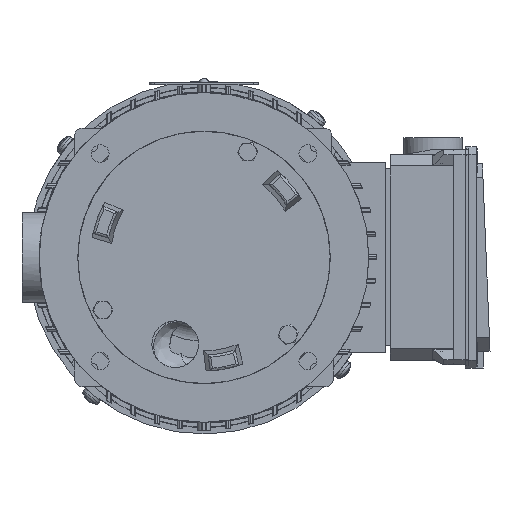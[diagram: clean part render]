
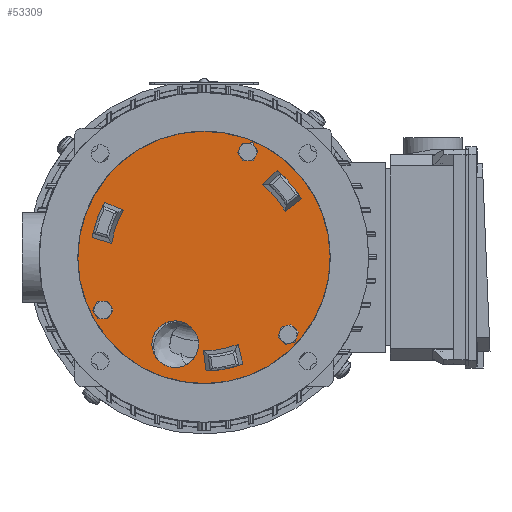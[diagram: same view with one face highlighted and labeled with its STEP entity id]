
A CAD part, front view. The second image highlights one B-rep face of the part: STEP entity #53309.
In plain terms, the highlighted planar face has unit normal (0, -1, 0).
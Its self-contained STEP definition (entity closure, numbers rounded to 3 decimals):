
#2802=FACE_BOUND('',#15404,.T.);
#2803=FACE_BOUND('',#15405,.T.);
#2804=FACE_BOUND('',#15406,.T.);
#2805=FACE_BOUND('',#15407,.T.);
#2806=FACE_BOUND('',#15408,.T.);
#2807=FACE_BOUND('',#15409,.T.);
#2808=FACE_BOUND('',#15410,.T.);
#4050=LINE('',#84432,#8375);
#4055=LINE('',#84516,#8380);
#4060=LINE('',#84607,#8385);
#4061=LINE('',#84621,#8386);
#4062=LINE('',#84626,#8387);
#4063=LINE('',#84635,#8388);
#8375=VECTOR('',#64399,1.);
#8380=VECTOR('',#64426,1.);
#8385=VECTOR('',#64459,1.);
#8386=VECTOR('',#64470,1.);
#8387=VECTOR('',#64477,1.);
#8388=VECTOR('',#64486,1.);
#12577=FACE_OUTER_BOUND('',#15403,.T.);
#15403=EDGE_LOOP('',(#36947));
#15404=EDGE_LOOP('',(#36948,#36949));
#15405=EDGE_LOOP('',(#36950,#36951));
#15406=EDGE_LOOP('',(#36952,#36953));
#15407=EDGE_LOOP('',(#36954,#36955,#36956,#36957));
#15408=EDGE_LOOP('',(#36958,#36959,#36960,#36961));
#15409=EDGE_LOOP('',(#36962,#36963,#36964,#36965));
#15410=EDGE_LOOP('',(#36966));
#18258=CIRCLE('',#56793,0.302);
#18259=CIRCLE('',#56794,0.302);
#18273=CIRCLE('',#56827,0.302);
#18274=CIRCLE('',#56828,0.302);
#18288=CIRCLE('',#56861,0.302);
#18289=CIRCLE('',#56862,0.302);
#18304=CIRCLE('',#56890,0.925);
#18315=CIRCLE('',#56905,5.);
#18324=CIRCLE('',#56925,3.702);
#18329=CIRCLE('',#56941,4.502);
#18334=CIRCLE('',#56955,4.502);
#18335=CIRCLE('',#56959,3.702);
#18336=CIRCLE('',#56963,4.502);
#18337=CIRCLE('',#56966,3.702);
#20967=VERTEX_POINT('',#83773);
#20968=VERTEX_POINT('',#83774);
#20994=VERTEX_POINT('',#83885);
#20995=VERTEX_POINT('',#83886);
#21022=VERTEX_POINT('',#83999);
#21023=VERTEX_POINT('',#84000);
#21045=VERTEX_POINT('',#84205);
#21055=VERTEX_POINT('',#84313);
#21067=VERTEX_POINT('',#84420);
#21068=VERTEX_POINT('',#84424);
#21069=VERTEX_POINT('',#84430);
#21080=VERTEX_POINT('',#84513);
#21081=VERTEX_POINT('',#84515);
#21082=VERTEX_POINT('',#84521);
#21093=VERTEX_POINT('',#84604);
#21094=VERTEX_POINT('',#84606);
#21095=VERTEX_POINT('',#84612);
#21096=VERTEX_POINT('',#84617);
#21097=VERTEX_POINT('',#84625);
#21098=VERTEX_POINT('',#84631);
#26798=EDGE_CURVE('',#20967,#20968,#18258,.T.);
#26799=EDGE_CURVE('',#20968,#20967,#18259,.T.);
#26840=EDGE_CURVE('',#20994,#20995,#18273,.T.);
#26841=EDGE_CURVE('',#20995,#20994,#18274,.T.);
#26883=EDGE_CURVE('',#21022,#21023,#18288,.T.);
#26884=EDGE_CURVE('',#21023,#21022,#18289,.T.);
#26923=EDGE_CURVE('',#21045,#21045,#18304,.T.);
#26941=EDGE_CURVE('',#21055,#21055,#18315,.T.);
#26963=EDGE_CURVE('',#21068,#21067,#18324,.T.);
#26966=EDGE_CURVE('',#21067,#21069,#4050,.T.);
#26982=EDGE_CURVE('',#21081,#21080,#4055,.T.);
#26985=EDGE_CURVE('',#21080,#21082,#18329,.T.);
#27001=EDGE_CURVE('',#21094,#21093,#4060,.T.);
#27004=EDGE_CURVE('',#21093,#21095,#18334,.T.);
#27006=EDGE_CURVE('',#21095,#21096,#4061,.T.);
#27007=EDGE_CURVE('',#21096,#21094,#18335,.T.);
#27008=EDGE_CURVE('',#21097,#21068,#4062,.T.);
#27010=EDGE_CURVE('',#21069,#21097,#18336,.T.);
#27012=EDGE_CURVE('',#21082,#21098,#4063,.T.);
#27013=EDGE_CURVE('',#21098,#21081,#18337,.T.);
#36947=ORIENTED_EDGE('',*,*,#26941,.T.);
#36948=ORIENTED_EDGE('',*,*,#26798,.T.);
#36949=ORIENTED_EDGE('',*,*,#26799,.T.);
#36950=ORIENTED_EDGE('',*,*,#26840,.T.);
#36951=ORIENTED_EDGE('',*,*,#26841,.T.);
#36952=ORIENTED_EDGE('',*,*,#26883,.T.);
#36953=ORIENTED_EDGE('',*,*,#26884,.T.);
#36954=ORIENTED_EDGE('',*,*,#27006,.T.);
#36955=ORIENTED_EDGE('',*,*,#27007,.T.);
#36956=ORIENTED_EDGE('',*,*,#27001,.T.);
#36957=ORIENTED_EDGE('',*,*,#27004,.T.);
#36958=ORIENTED_EDGE('',*,*,#27008,.T.);
#36959=ORIENTED_EDGE('',*,*,#26963,.T.);
#36960=ORIENTED_EDGE('',*,*,#26966,.T.);
#36961=ORIENTED_EDGE('',*,*,#27010,.T.);
#36962=ORIENTED_EDGE('',*,*,#27012,.T.);
#36963=ORIENTED_EDGE('',*,*,#27013,.T.);
#36964=ORIENTED_EDGE('',*,*,#26982,.T.);
#36965=ORIENTED_EDGE('',*,*,#26985,.T.);
#36966=ORIENTED_EDGE('',*,*,#26923,.T.);
#48502=PLANE('',#56967);
#53309=ADVANCED_FACE('',(#12577,#2802,#2803,#2804,#2805,#2806,#2807,#2808),
#48502,.F.);
#56793=AXIS2_PLACEMENT_3D('',#83775,#64075,#64076);
#56794=AXIS2_PLACEMENT_3D('',#83776,#64077,#64078);
#56827=AXIS2_PLACEMENT_3D('',#83887,#64158,#64159);
#56828=AXIS2_PLACEMENT_3D('',#83888,#64160,#64161);
#56861=AXIS2_PLACEMENT_3D('',#84001,#64242,#64243);
#56862=AXIS2_PLACEMENT_3D('',#84002,#64244,#64245);
#56890=AXIS2_PLACEMENT_3D('',#84207,#64316,#64317);
#56905=AXIS2_PLACEMENT_3D('',#84314,#64348,#64349);
#56925=AXIS2_PLACEMENT_3D('',#84425,#64393,#64394);
#56941=AXIS2_PLACEMENT_3D('',#84523,#64431,#64432);
#56955=AXIS2_PLACEMENT_3D('',#84614,#64464,#64465);
#56959=AXIS2_PLACEMENT_3D('',#84623,#64473,#64474);
#56963=AXIS2_PLACEMENT_3D('',#84629,#64482,#64483);
#56966=AXIS2_PLACEMENT_3D('',#84637,#64489,#64490);
#56967=AXIS2_PLACEMENT_3D('',#84638,#64491,#64492);
#64075=DIRECTION('center_axis',(0.,1.,0.));
#64076=DIRECTION('ref_axis',(0.999,0.,0.039));
#64077=DIRECTION('center_axis',(0.,1.,0.));
#64078=DIRECTION('ref_axis',(0.999,0.,0.039));
#64158=DIRECTION('center_axis',(0.,1.,0.));
#64159=DIRECTION('ref_axis',(0.97,0.,0.244));
#64160=DIRECTION('center_axis',(0.,1.,0.));
#64161=DIRECTION('ref_axis',(0.97,0.,0.244));
#64242=DIRECTION('center_axis',(0.,1.,0.));
#64243=DIRECTION('ref_axis',(0.497,0.,0.868));
#64244=DIRECTION('center_axis',(0.,1.,0.));
#64245=DIRECTION('ref_axis',(0.497,0.,0.868));
#64316=DIRECTION('center_axis',(0.,1.,0.));
#64317=DIRECTION('ref_axis',(-0.76,0.,-0.649));
#64348=DIRECTION('center_axis',(0.,-1.,0.));
#64349=DIRECTION('ref_axis',(-0.76,0.,-0.649));
#64393=DIRECTION('center_axis',(0.,-1.,0.));
#64394=DIRECTION('ref_axis',(0.863,0.,-0.506));
#64399=DIRECTION('',(-0.958,0.,0.287));
#64426=DIRECTION('',(0.231,0.,-0.973));
#64431=DIRECTION('center_axis',(0.,1.,0.));
#64432=DIRECTION('ref_axis',(0.018,0.,-1.));
#64459=DIRECTION('',(0.727,0.,0.686));
#64464=DIRECTION('center_axis',(0.,1.,0.));
#64465=DIRECTION('ref_axis',(0.857,0.,0.516));
#64470=DIRECTION('',(-0.792,0.,-0.611));
#64473=DIRECTION('center_axis',(0.,-1.,0.));
#64474=DIRECTION('ref_axis',(-0.87,0.,-0.494));
#64477=DIRECTION('',(0.925,0.,-0.38));
#64482=DIRECTION('center_axis',(0.,1.,0.));
#64483=DIRECTION('ref_axis',(-0.875,0.,0.484));
#64486=DIRECTION('',(-0.133,0.,0.991));
#64489=DIRECTION('center_axis',(0.,-1.,0.));
#64490=DIRECTION('ref_axis',(0.007,0.,1.));
#64491=DIRECTION('center_axis',(0.,1.,0.));
#64492=DIRECTION('ref_axis',(-0.649,0.,0.76));
#83773=CARTESIAN_POINT('',(2.033,-9.045,4.192));
#83774=CARTESIAN_POINT('',(1.43,-9.045,4.169));
#83775=CARTESIAN_POINT('Origin',(1.732,-9.045,4.181));
#83776=CARTESIAN_POINT('Origin',(1.732,-9.045,4.181));
#83885=CARTESIAN_POINT('',(3.629,-9.045,-2.984));
#83886=CARTESIAN_POINT('',(3.044,-9.045,-3.13));
#83887=CARTESIAN_POINT('Origin',(3.336,-9.045,-3.057));
#83888=CARTESIAN_POINT('Origin',(3.336,-9.045,-3.057));
#83999=CARTESIAN_POINT('',(-3.864,-9.045,-1.828));
#84000=CARTESIAN_POINT('',(-4.164,-9.045,-2.351));
#84001=CARTESIAN_POINT('Origin',(-4.014,-9.045,-2.089));
#84002=CARTESIAN_POINT('Origin',(-4.014,-9.045,-2.089));
#84205=CARTESIAN_POINT('',(-0.438,-9.045,-2.84));
#84207=CARTESIAN_POINT('Origin',(-1.141,-9.045,-3.441));
#84313=CARTESIAN_POINT('',(3.802,-9.045,3.247));
#84314=CARTESIAN_POINT('Origin',(0.,-9.045,
0.));
#84420=CARTESIAN_POINT('',(-3.66,-9.045,0.553));
#84424=CARTESIAN_POINT('',(-3.193,-9.045,1.873));
#84425=CARTESIAN_POINT('Origin',(0.,-9.045,
0.));
#84430=CARTESIAN_POINT('',(-4.433,-9.045,0.785));
#84432=CARTESIAN_POINT('',(-2.291,-9.045,0.144));
#84513=CARTESIAN_POINT('',(1.537,-9.045,-4.231));
#84515=CARTESIAN_POINT('',(1.351,-9.045,-3.446));
#84516=CARTESIAN_POINT('',(1.021,-9.045,-2.056));
#84521=CARTESIAN_POINT('',(0.082,-9.045,-4.501));
#84523=CARTESIAN_POINT('Origin',(0.,-9.045,
0.));
#84604=CARTESIAN_POINT('',(2.896,-9.045,3.446));
#84606=CARTESIAN_POINT('',(2.309,-9.045,2.893));
#84607=CARTESIAN_POINT('',(1.27,-9.045,1.912));
#84612=CARTESIAN_POINT('',(3.857,-9.045,2.321));
#84614=CARTESIAN_POINT('Origin',(0.,-9.045,
0.));
#84617=CARTESIAN_POINT('',(3.218,-9.045,1.828));
#84621=CARTESIAN_POINT('',(1.768,-9.045,0.709));
#84623=CARTESIAN_POINT('Origin',(0.,-9.045,
0.));
#84625=CARTESIAN_POINT('',(-3.939,-9.045,2.18));
#84626=CARTESIAN_POINT('',(-1.498,-9.045,1.177));
#84629=CARTESIAN_POINT('Origin',(0.,-9.045,
0.));
#84631=CARTESIAN_POINT('',(-0.026,-9.045,-3.701));
#84635=CARTESIAN_POINT('',(-0.27,-9.045,-1.885));
#84637=CARTESIAN_POINT('Origin',(0.,-9.045,
0.));
#84638=CARTESIAN_POINT('Origin',(0.,-9.045,
0.));
